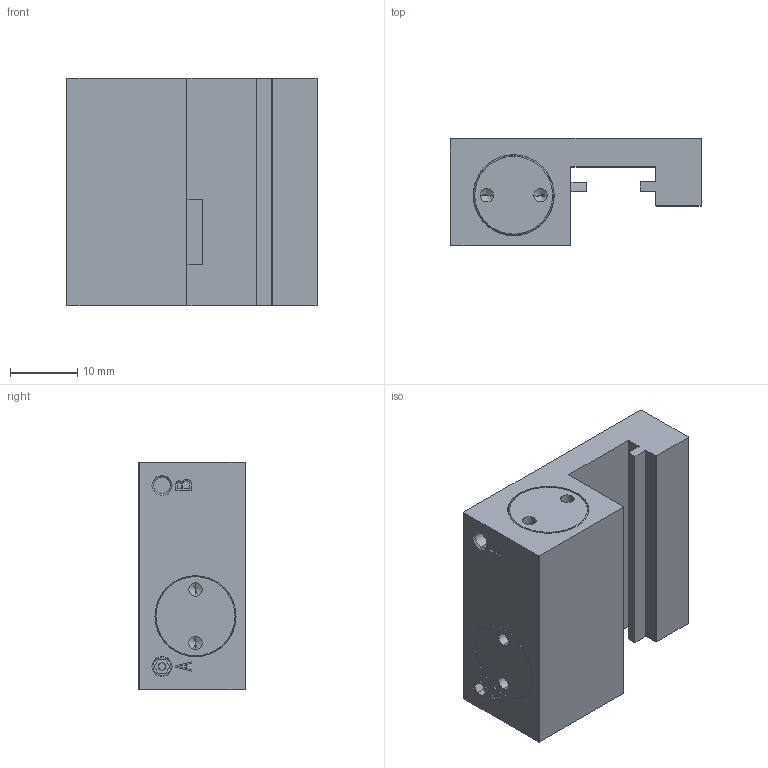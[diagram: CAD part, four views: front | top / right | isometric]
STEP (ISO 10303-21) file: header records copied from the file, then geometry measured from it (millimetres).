
FILE_DESCRIPTION( ( '' ), '1' );
FILE_NAME( 'E:/04 嬴檜蠱滌/0404 ZIMMER/040414 ZIMMER CAD download/MCP/MCP1202F---.stp', '2020-04-16T10:02:16', ( '' ), ( '' ), ' ', ' ', ' ' );
FILE_SCHEMA( ( 'automotive_design' ) );
Length unit declared in the file: millimetre
Products named in the file (1): 1
Bounding box: 37.5 x 16.05 x 34 mm (x, y, z)
Volume: 14038 mm3; surface area: 5477.9 mm2
Topology: 1 solids, 1 shells, 121 faces, 286 edges, 180 vertices
Faces by surface type: plane 67, cylinder 32, cone 22
Entity records: 6686 total; most frequent: DIRECTION 602, STYLED_ITEM 580, PRESENTATION_STYLE_ASSIGNMENT 580, CARTESIAN_POINT 580, COLOUR_RGB 580, ORIENTED_EDGE 556, EDGE_CURVE 278, CURVE_STYLE 278
